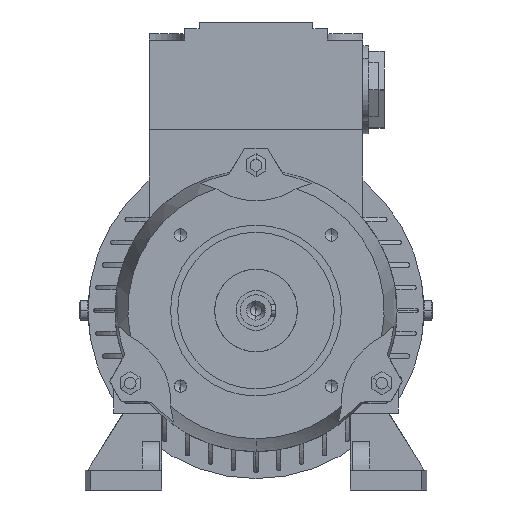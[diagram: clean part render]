
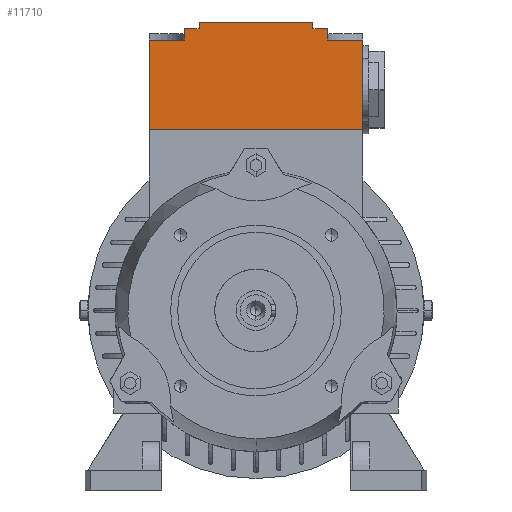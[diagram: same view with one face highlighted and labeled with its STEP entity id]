
A CAD part, left-side view. The second image highlights one B-rep face of the part: STEP entity #11710.
In plain terms, the highlighted planar face has unit normal (-1, 0, 0).
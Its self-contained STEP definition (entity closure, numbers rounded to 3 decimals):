
#16 = CARTESIAN_POINT ( 'NONE',  ( 2.5, 20., 98.975 ) ) ;
#55 = DIRECTION ( 'NONE',  ( 0., 0., -1. ) ) ;
#222 = VERTEX_POINT ( 'NONE', #8564 ) ;
#398 = CARTESIAN_POINT ( 'NONE',  ( 2.5, 0., 98.975 ) ) ;
#662 = CARTESIAN_POINT ( 'NONE',  ( 2.5, -18.75, 94.96 ) ) ;
#787 = CARTESIAN_POINT ( 'NONE',  ( 2.5, -20., 101.287 ) ) ;
#1036 = CARTESIAN_POINT ( 'NONE',  ( 2.5, -25., 98.063 ) ) ;
#1111 = EDGE_CURVE ( 'NONE', #19199, #15339, #4753, .T. ) ;
#1304 = CARTESIAN_POINT ( 'NONE',  ( 2.5, 25., 97.88 ) ) ;
#1329 = CARTESIAN_POINT ( 'NONE',  ( 2.5, 37.5, 94.96 ) ) ;
#1408 = LINE ( 'NONE', #1304, #2831 ) ;
#1489 = ORIENTED_EDGE ( 'NONE', *, *, #18331, .T. ) ;
#1513 = CARTESIAN_POINT ( 'NONE',  ( 2.5, -37.5, 95.325 ) ) ;
#1527 = VECTOR ( 'NONE', #9412, 1000. ) ;
#1574 = LINE ( 'NONE', #13926, #8321 ) ;
#1709 = DIRECTION ( 'NONE',  ( 0., -1., 0. ) ) ;
#1972 = VERTEX_POINT ( 'NONE', #3128 ) ;
#2388 = EDGE_CURVE ( 'NONE', #222, #1972, #15285, .T. ) ;
#2551 = DIRECTION ( 'NONE',  ( 1., 0., 0. ) ) ;
#2647 = DIRECTION ( 'NONE',  ( 0., 0., -1. ) ) ;
#2831 = VECTOR ( 'NONE', #10528, 1000. ) ;
#2987 = VERTEX_POINT ( 'NONE', #17149 ) ;
#3041 = EDGE_CURVE ( 'NONE', #1972, #7042, #4777, .T. ) ;
#3091 = VECTOR ( 'NONE', #1709, 1000. ) ;
#3128 = CARTESIAN_POINT ( 'NONE',  ( 2.5, -37.5, 63.5 ) ) ;
#3235 = CARTESIAN_POINT ( 'NONE',  ( 2.5, 25., 94.96 ) ) ;
#3684 = ORIENTED_EDGE ( 'NONE', *, *, #10308, .T. ) ;
#4019 = ORIENTED_EDGE ( 'NONE', *, *, #13437, .T. ) ;
#4603 = VERTEX_POINT ( 'NONE', #3235 ) ;
#4703 = VERTEX_POINT ( 'NONE', #12770 ) ;
#4753 = LINE ( 'NONE', #17129, #1527 ) ;
#4777 = LINE ( 'NONE', #6188, #19868 ) ;
#4888 = CARTESIAN_POINT ( 'NONE',  ( 2.5, 25., 98.063 ) ) ;
#5201 = DIRECTION ( 'NONE',  ( 0., 1., 0. ) ) ;
#5342 = EDGE_CURVE ( 'NONE', #10887, #7042, #1574, .T. ) ;
#5387 = LINE ( 'NONE', #11680, #12661 ) ;
#6188 = CARTESIAN_POINT ( 'NONE',  ( 2.5, 0., 63.5 ) ) ;
#6589 = CARTESIAN_POINT ( 'NONE',  ( 2.5, -20., 99.888 ) ) ;
#6845 = EDGE_CURVE ( 'NONE', #2987, #4603, #1408, .T. ) ;
#6912 = VECTOR ( 'NONE', #10107, 1000. ) ;
#7003 = PLANE ( 'NONE',  #18807 ) ;
#7042 = VERTEX_POINT ( 'NONE', #16180 ) ;
#7047 = CARTESIAN_POINT ( 'NONE',  ( 2.5, -25., 94.96 ) ) ;
#7095 = DIRECTION ( 'NONE',  ( 0., 0., -1. ) ) ;
#7111 = VECTOR ( 'NONE', #2647, 1000. ) ;
#7119 = LINE ( 'NONE', #11612, #15219 ) ;
#7954 = EDGE_CURVE ( 'NONE', #4603, #10887, #8881, .T. ) ;
#8136 = LINE ( 'NONE', #4888, #15100 ) ;
#8321 = VECTOR ( 'NONE', #55, 1000. ) ;
#8376 = CARTESIAN_POINT ( 'NONE',  ( 2.5, 20., 101.287 ) ) ;
#8529 = CARTESIAN_POINT ( 'NONE',  ( 2.5, 0., 78.5 ) ) ;
#8564 = CARTESIAN_POINT ( 'NONE',  ( 2.5, -37.5, 94.96 ) ) ;
#8664 = ORIENTED_EDGE ( 'NONE', *, *, #3041, .F. ) ;
#8881 = LINE ( 'NONE', #11834, #6912 ) ;
#9039 = CARTESIAN_POINT ( 'NONE',  ( 2.5, -25., 97.88 ) ) ;
#9412 = DIRECTION ( 'NONE',  ( 0., -1., 0. ) ) ;
#9997 = CARTESIAN_POINT ( 'NONE',  ( 2.5, -20., 98.975 ) ) ;
#10107 = DIRECTION ( 'NONE',  ( 0., 1., 0. ) ) ;
#10205 = ORIENTED_EDGE ( 'NONE', *, *, #1111, .F. ) ;
#10308 = EDGE_CURVE ( 'NONE', #222, #19285, #11703, .T. ) ;
#10528 = DIRECTION ( 'NONE',  ( 0., 0., -1. ) ) ;
#10645 = EDGE_CURVE ( 'NONE', #19199, #11919, #5387, .T. ) ;
#10834 = EDGE_CURVE ( 'NONE', #4703, #15875, #15115, .T. ) ;
#10887 = VERTEX_POINT ( 'NONE', #1329 ) ;
#10890 = VERTEX_POINT ( 'NONE', #13679 ) ;
#11048 = VECTOR ( 'NONE', #18917, 1000. ) ;
#11231 = LINE ( 'NONE', #398, #3091 ) ;
#11419 = EDGE_CURVE ( 'NONE', #15357, #4703, #7119, .T. ) ;
#11539 = ORIENTED_EDGE ( 'NONE', *, *, #11419, .F. ) ;
#11612 = CARTESIAN_POINT ( 'NONE',  ( 2.5, 0., 98.975 ) ) ;
#11680 = CARTESIAN_POINT ( 'NONE',  ( 2.5, 20., 99.888 ) ) ;
#11703 = LINE ( 'NONE', #662, #12971 ) ;
#11710 = ADVANCED_FACE ( 'NONE', ( #12999 ), #7003, .F. ) ;
#11834 = CARTESIAN_POINT ( 'NONE',  ( 2.5, 18.75, 94.96 ) ) ;
#11919 = VERTEX_POINT ( 'NONE', #16 ) ;
#12182 = DIRECTION ( 'NONE',  ( 0., 1., 0. ) ) ;
#12509 = EDGE_CURVE ( 'NONE', #15339, #15357, #17554, .T. ) ;
#12661 = VECTOR ( 'NONE', #7095, 1000. ) ;
#12765 = EDGE_LOOP ( 'NONE', ( #3684, #4019, #13402, #11539, #17823, #10205, #13742, #16342, #1489, #13343, #13693, #18104, #8664, #18297 ) ) ;
#12770 = CARTESIAN_POINT ( 'NONE',  ( 2.5, -25., 98.975 ) ) ;
#12971 = VECTOR ( 'NONE', #5201, 1000. ) ;
#12999 = FACE_OUTER_BOUND ( 'NONE', #12765, .T. ) ;
#13196 = DIRECTION ( 'NONE',  ( 0., 1., 0. ) ) ;
#13343 = ORIENTED_EDGE ( 'NONE', *, *, #6845, .T. ) ;
#13402 = ORIENTED_EDGE ( 'NONE', *, *, #10834, .F. ) ;
#13437 = EDGE_CURVE ( 'NONE', #19285, #15875, #13499, .T. ) ;
#13499 = LINE ( 'NONE', #9039, #17609 ) ;
#13679 = CARTESIAN_POINT ( 'NONE',  ( 2.5, 25., 98.975 ) ) ;
#13693 = ORIENTED_EDGE ( 'NONE', *, *, #7954, .T. ) ;
#13742 = ORIENTED_EDGE ( 'NONE', *, *, #10645, .T. ) ;
#13926 = CARTESIAN_POINT ( 'NONE',  ( 2.5, 37.5, 78.5 ) ) ;
#14594 = DIRECTION ( 'NONE',  ( 0., 0., -1. ) ) ;
#15100 = VECTOR ( 'NONE', #17565, 1000. ) ;
#15115 = LINE ( 'NONE', #1036, #7111 ) ;
#15213 = DIRECTION ( 'NONE',  ( 0., 0., 1. ) ) ;
#15219 = VECTOR ( 'NONE', #19418, 1000. ) ;
#15285 = LINE ( 'NONE', #1513, #11048 ) ;
#15339 = VERTEX_POINT ( 'NONE', #787 ) ;
#15357 = VERTEX_POINT ( 'NONE', #9997 ) ;
#15777 = EDGE_CURVE ( 'NONE', #10890, #11919, #11231, .T. ) ;
#15875 = VERTEX_POINT ( 'NONE', #19135 ) ;
#16180 = CARTESIAN_POINT ( 'NONE',  ( 2.5, 37.5, 63.5 ) ) ;
#16342 = ORIENTED_EDGE ( 'NONE', *, *, #15777, .F. ) ;
#17129 = CARTESIAN_POINT ( 'NONE',  ( 2.5, 20., 101.287 ) ) ;
#17149 = CARTESIAN_POINT ( 'NONE',  ( 2.5, 25., 97.15 ) ) ;
#17554 = LINE ( 'NONE', #6589, #18167 ) ;
#17565 = DIRECTION ( 'NONE',  ( 0., 0., -1. ) ) ;
#17609 = VECTOR ( 'NONE', #15213, 1000. ) ;
#17823 = ORIENTED_EDGE ( 'NONE', *, *, #12509, .F. ) ;
#18104 = ORIENTED_EDGE ( 'NONE', *, *, #5342, .T. ) ;
#18167 = VECTOR ( 'NONE', #14594, 1000. ) ;
#18297 = ORIENTED_EDGE ( 'NONE', *, *, #2388, .F. ) ;
#18331 = EDGE_CURVE ( 'NONE', #10890, #2987, #8136, .T. ) ;
#18807 = AXIS2_PLACEMENT_3D ( 'NONE', #8529, #2551, #13196 ) ;
#18917 = DIRECTION ( 'NONE',  ( 0., 0., -1. ) ) ;
#19135 = CARTESIAN_POINT ( 'NONE',  ( 2.5, -25., 97.15 ) ) ;
#19199 = VERTEX_POINT ( 'NONE', #8376 ) ;
#19285 = VERTEX_POINT ( 'NONE', #7047 ) ;
#19418 = DIRECTION ( 'NONE',  ( 0., -1., 0. ) ) ;
#19868 = VECTOR ( 'NONE', #12182, 1000. ) ;
